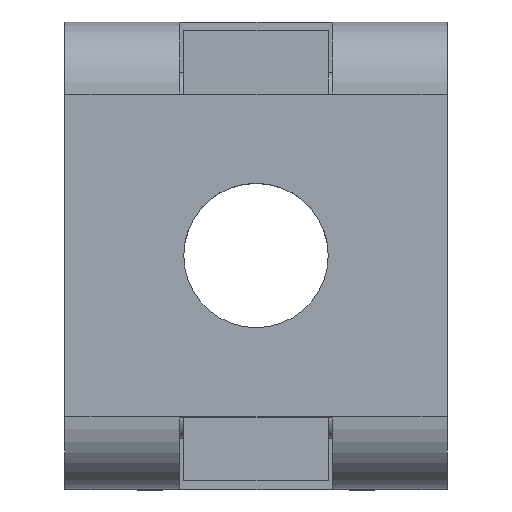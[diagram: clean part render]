
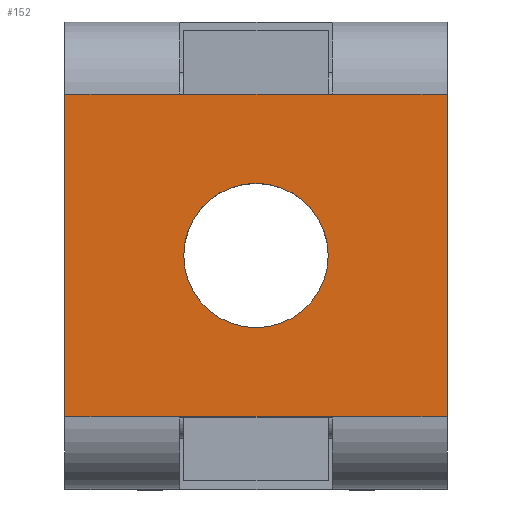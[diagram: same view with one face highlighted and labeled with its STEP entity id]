
A CAD part, top view. The second image highlights one B-rep face of the part: STEP entity #152.
In plain terms, the highlighted planar face has unit normal (0, 0, 1).
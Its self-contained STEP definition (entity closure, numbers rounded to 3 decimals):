
#105=FACE_BOUND('',#350,.T.);
#106=FACE_BOUND('',#351,.T.);
#152=ADVANCED_FACE('',(#105,#106),#229,.F.);
#229=PLANE('',#1662);
#350=EDGE_LOOP('',(#549,#550,#551,#552,#553,#554,#555,#556));
#351=EDGE_LOOP('',(#557));
#447=CIRCLE('',#1661,1.7);
#549=ORIENTED_EDGE('',*,*,#1142,.F.);
#550=ORIENTED_EDGE('',*,*,#1143,.T.);
#551=ORIENTED_EDGE('',*,*,#1144,.T.);
#552=ORIENTED_EDGE('',*,*,#1145,.T.);
#553=ORIENTED_EDGE('',*,*,#1146,.T.);
#554=ORIENTED_EDGE('',*,*,#1139,.F.);
#555=ORIENTED_EDGE('',*,*,#1147,.F.);
#556=ORIENTED_EDGE('',*,*,#1148,.F.);
#557=ORIENTED_EDGE('',*,*,#1149,.F.);
#989=VERTEX_POINT('',#2330);
#990=VERTEX_POINT('',#2331);
#991=VERTEX_POINT('',#2336);
#992=VERTEX_POINT('',#2337);
#993=VERTEX_POINT('',#2339);
#994=VERTEX_POINT('',#2341);
#995=VERTEX_POINT('',#2343);
#996=VERTEX_POINT('',#2346);
#997=VERTEX_POINT('',#2349);
#1139=EDGE_CURVE('',#989,#990,#1347,.T.);
#1142=EDGE_CURVE('',#991,#992,#1348,.T.);
#1143=EDGE_CURVE('',#991,#993,#1349,.T.);
#1144=EDGE_CURVE('',#993,#994,#1350,.T.);
#1145=EDGE_CURVE('',#994,#995,#1351,.T.);
#1146=EDGE_CURVE('',#995,#990,#1352,.T.);
#1147=EDGE_CURVE('',#996,#989,#1353,.T.);
#1148=EDGE_CURVE('',#992,#996,#1354,.T.);
#1149=EDGE_CURVE('',#997,#997,#447,.T.);
#1347=LINE('',#2329,#1511);
#1348=LINE('',#2335,#1512);
#1349=LINE('',#2338,#1513);
#1350=LINE('',#2340,#1514);
#1351=LINE('',#2342,#1515);
#1352=LINE('',#2344,#1516);
#1353=LINE('',#2345,#1517);
#1354=LINE('',#2347,#1518);
#1511=VECTOR('',#1856,1.);
#1512=VECTOR('',#1863,1.);
#1513=VECTOR('',#1864,1.);
#1514=VECTOR('',#1865,1.);
#1515=VECTOR('',#1866,1.);
#1516=VECTOR('',#1867,1.);
#1517=VECTOR('',#1868,1.);
#1518=VECTOR('',#1869,1.);
#1661=AXIS2_PLACEMENT_3D('',#2348,#1870,#1871);
#1662=AXIS2_PLACEMENT_3D('',#2350,#1872,#1873);
#1856=DIRECTION('',(-1.,0.,0.));
#1863=DIRECTION('',(0.,-1.,0.));
#1864=DIRECTION('',(-1.,0.,0.));
#1865=DIRECTION('',(-1.,0.,0.));
#1866=DIRECTION('',(-1.,0.,0.));
#1867=DIRECTION('',(0.,-1.,0.));
#1868=DIRECTION('',(-1.,0.,0.));
#1869=DIRECTION('',(-1.,0.,0.));
#1870=DIRECTION('',(0.,0.,1.));
#1871=DIRECTION('',(-1.,0.,0.));
#1872=DIRECTION('',(0.,0.,-1.));
#1873=DIRECTION('',(1.,0.,0.));
#2329=CARTESIAN_POINT('',(9.,0.7,10.));
#2330=CARTESIAN_POINT('',(2.7,0.7,10.));
#2331=CARTESIAN_POINT('',(0.,0.7,10.));
#2335=CARTESIAN_POINT('',(9.,1.7,10.));
#2336=CARTESIAN_POINT('',(9.,8.3,10.));
#2337=CARTESIAN_POINT('',(9.,0.7,10.));
#2338=CARTESIAN_POINT('',(9.,8.3,10.));
#2339=CARTESIAN_POINT('',(6.3,8.3,10.));
#2340=CARTESIAN_POINT('',(6.,8.3,10.));
#2341=CARTESIAN_POINT('',(2.7,8.3,10.));
#2342=CARTESIAN_POINT('',(9.,8.3,10.));
#2343=CARTESIAN_POINT('',(0.,8.3,10.));
#2344=CARTESIAN_POINT('',(0.,4.5,10.));
#2345=CARTESIAN_POINT('',(6.,0.7,10.));
#2346=CARTESIAN_POINT('',(6.3,0.7,10.));
#2347=CARTESIAN_POINT('',(9.,0.7,10.));
#2348=CARTESIAN_POINT('',(4.5,4.5,10.));
#2349=CARTESIAN_POINT('',(2.8,4.5,10.));
#2350=CARTESIAN_POINT('',(9.,4.5,10.));
